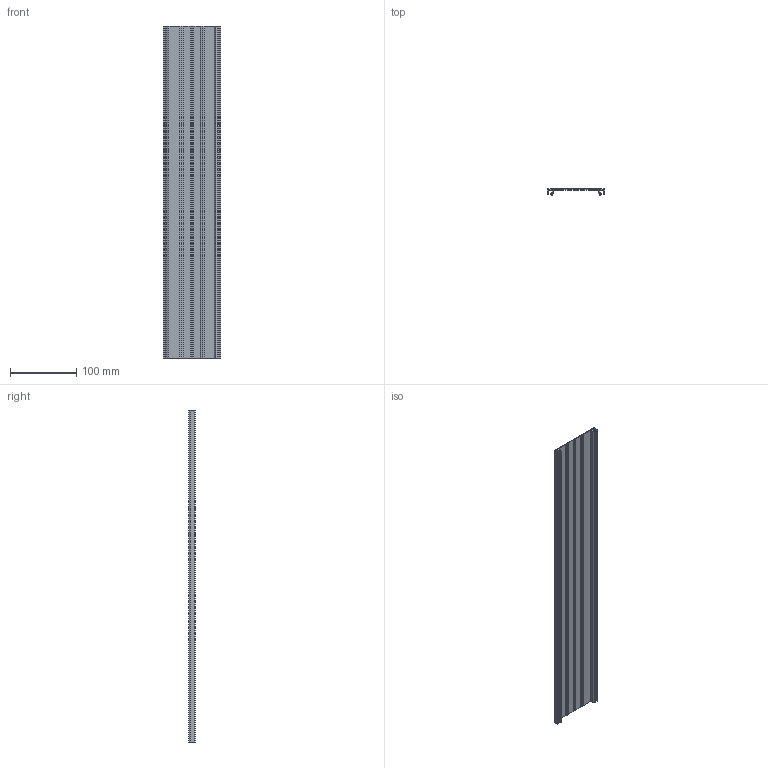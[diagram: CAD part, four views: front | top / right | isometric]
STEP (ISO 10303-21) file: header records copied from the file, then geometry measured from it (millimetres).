
FILE_DESCRIPTION (( 'STEP AP214' ), '1' );
FILE_NAME ('FBCC 3x88.STEP', '2011-06-30T06:41:40', ( '.' ), ( '' ), 'SwSTEP 2.0', 'SolidWorks 2010', '' );
FILE_SCHEMA (( 'AUTOMOTIVE_DESIGN' ));
Length unit declared in the file: millimetre
Products named in the file (1): FBCC 3x88
Bounding box: 86 x 9.27 x 500 mm (x, y, z)
Volume: 93712 mm3; surface area: 123704.4 mm2
Topology: 1 solids, 1 shells, 98 faces, 288 edges, 192 vertices
Faces by surface type: plane 65, cylinder 33
Entity records: 3292 total; most frequent: CARTESIAN_POINT 579, ORIENTED_EDGE 576, DIRECTION 552, EDGE_CURVE 288, VECTOR 222, LINE 222, VERTEX_POINT 192, AXIS2_PLACEMENT_3D 165
